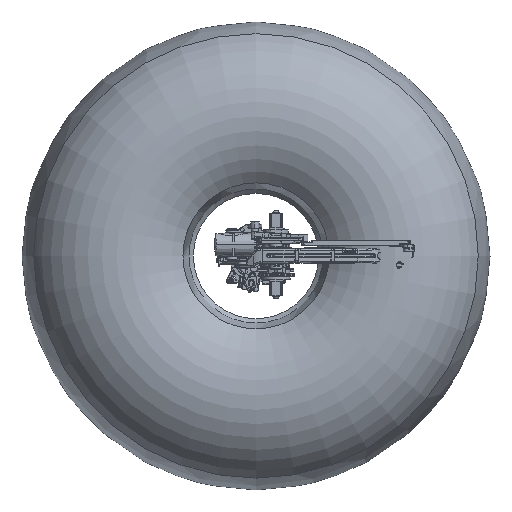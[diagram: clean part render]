
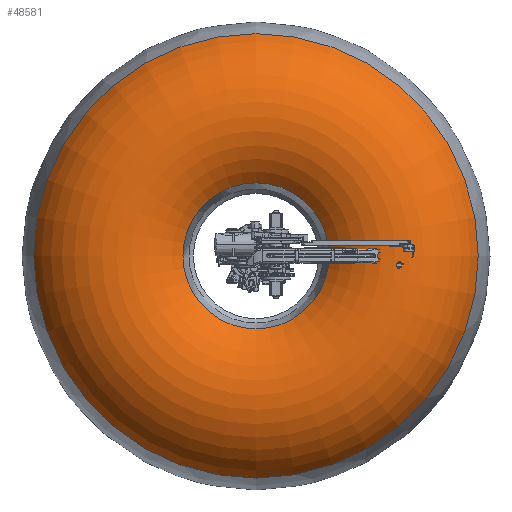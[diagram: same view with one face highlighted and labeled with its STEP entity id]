
A CAD part, top view. The second image highlights one B-rep face of the part: STEP entity #48581.
In plain terms, the highlighted toroidal (fillet/blend) face has major radius 1868.81 mm and minor radius 1250 mm.
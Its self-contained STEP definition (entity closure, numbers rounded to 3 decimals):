
#27459=FACE_BOUND('',#66783,.T.);
#27460=FACE_BOUND('',#66784,.T.);
#33450=CIRCLE('',#161189,984.929);
#33451=CIRCLE('',#161190,2997.044);
#40834=TOROIDAL_SURFACE('',#161191,1868.813,1250.);
#48581=ADVANCED_FACE('',(#27459,#27460),#40834,.T.);
#66783=EDGE_LOOP('',(#106265));
#66784=EDGE_LOOP('',(#106266));
#106265=ORIENTED_EDGE('',*,*,#138229,.T.);
#106266=ORIENTED_EDGE('',*,*,#138230,.F.);
#118488=VERTEX_POINT('',#415065);
#118489=VERTEX_POINT('',#415067);
#138229=EDGE_CURVE('',#118488,#118488,#33450,.T.);
#138230=EDGE_CURVE('',#118489,#118489,#33451,.T.);
#161189=AXIS2_PLACEMENT_3D('',#415064,#184359,#184360);
#161190=AXIS2_PLACEMENT_3D('',#415066,#184361,#184362);
#161191=AXIS2_PLACEMENT_3D('',#415068,#184363,#184364);
#184359=DIRECTION('',(0.,0.,-1.));
#184360=DIRECTION('',(-1.,0.,0.));
#184361=DIRECTION('',(0.,0.,-1.));
#184362=DIRECTION('',(-1.,0.,0.));
#184363=DIRECTION('',(0.,0.,-1.));
#184364=DIRECTION('',(-1.,0.,0.));
#415064=CARTESIAN_POINT('',(0.,0.,1870.809));
#415065=CARTESIAN_POINT('',(-984.929,0.,1870.809));
#415066=CARTESIAN_POINT('',(0.,0.,1525.065));
#415067=CARTESIAN_POINT('',(-2997.044,0.,1525.065));
#415068=CARTESIAN_POINT('',(0.,0.,986.926));
